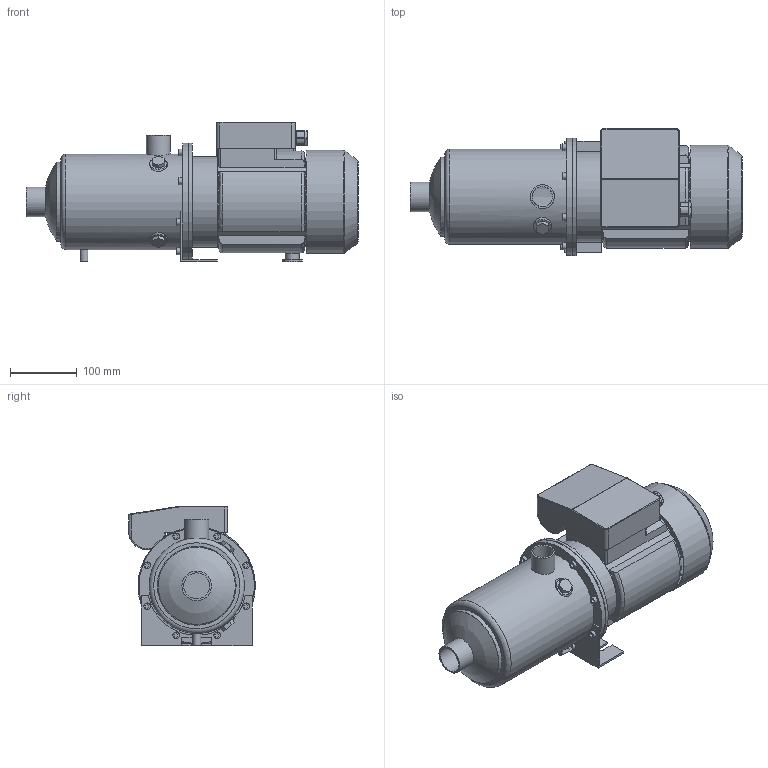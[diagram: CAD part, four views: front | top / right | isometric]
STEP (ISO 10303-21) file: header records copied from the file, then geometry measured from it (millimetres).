
FILE_DESCRIPTION(/* description */ ('Unknown'),/* implementation_level */ '2;1');
FILE_NAME(/* name */ 'MH 3 [7] M',/* time_stamp */ '2026-07-10T14:54:13+02:00',/* author */ ('Unknown'),/* organization */ ('Unknown'),/* preprocessor_version */ 'ST-DEVELOPER v20',/* originating_system */ 'Solid Edge',/* authorisation */ 'Unknown');
FILE_SCHEMA (('AUTOMOTIVE_DESIGN {1 0 10303 214 3 1 1}'));
Length unit declared in the file: millimetre
Products named in the file (10): MH 3 [7] M; Flangia motore Tonda M80; Corpo MH 3-5 [7]; Mot_Wendy_MEC80_11-15_M; carcassa MEC 80-Wendy; Copriventola MEC 80-Wendy; Basetta MEC 80 M-Wendy_new; 1; Piedino MEC 80 int.90; Staffa 3-5-9 int.90
Assembly tree (9 placements, depth 3):
  MH 3 [7] M
    Flangia motore Tonda M80
    Corpo MH 3-5 [7]
    Mot_Wendy_MEC80_11-15_M
      carcassa MEC 80-Wendy
      Copriventola MEC 80-Wendy
      Basetta MEC 80 M-Wendy_new
      1
    Piedino MEC 80 int.90
    Staffa 3-5-9 int.90
Bounding box: 499.1 x 190.75 x 209.5 mm (x, y, z)
Volume: 2651858.5 mm3; surface area: 647761.4 mm2
Topology: 8 solids, 8 shells, 289 faces, 682 edges, 450 vertices
Faces by surface type: plane 170, cylinder 80, torus 19, cone 14, bspline 4, sphere 2
Full cylindrical faces by diameter (mm): 7 x4, 10 x9, 12 x2, 15 x1, 16.5 x1, 21 x1, 30 x1, 30.291 x1, 36 x1, 38.952 x1, 44.5 x1, 116.1 x1, 118.5 x1, 125 x1, 130 x3, 134 x1, 136 x1, 141.1 x1, 143.5 x1, 153.5 x1, 155.5 x1, 173.5 x1, 174.1 x1, 176.5 x2
Entity records: 9370 total; most frequent: CARTESIAN_POINT 1793, DIRECTION 1322, ORIENTED_EDGE 1184, EDGE_CURVE 592, AXIS2_PLACEMENT_3D 490, VERTEX_POINT 419, EDGE_LOOP 399, FACE_BOUND 399
